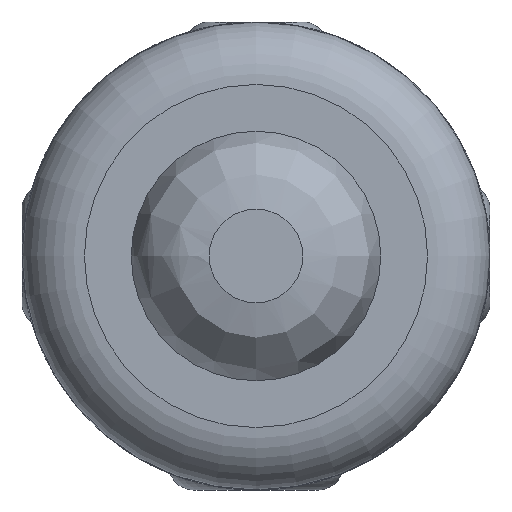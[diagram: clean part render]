
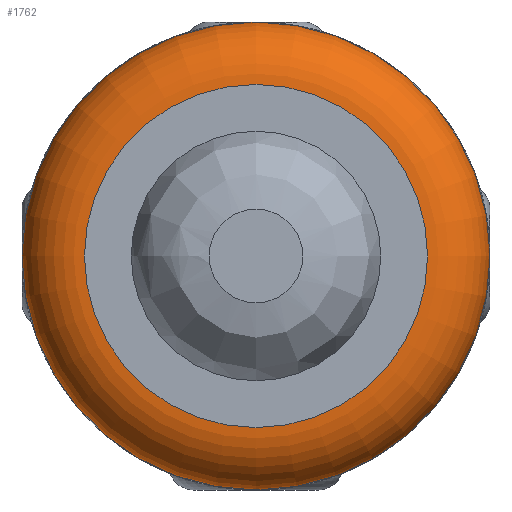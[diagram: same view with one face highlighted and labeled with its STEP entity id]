
A CAD part, front view. The second image highlights one B-rep face of the part: STEP entity #1762.
In plain terms, the highlighted toroidal (fillet/blend) face has major radius 6.985 mm and minor radius 2.54 mm.
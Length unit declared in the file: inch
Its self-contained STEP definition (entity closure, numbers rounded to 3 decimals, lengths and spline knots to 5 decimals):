
#1735=CARTESIAN_POINT('',(0.0,0.0,0.9));
#1736=DIRECTION('',(0.0,0.0,-1.0));
#1737=DIRECTION('',(-1.0,0.0,0.0));
#1738=AXIS2_PLACEMENT_3D('',#1735,#1736,#1737);
#1739=TOROIDAL_SURFACE('',#1738,0.275,0.1);
#1740=CARTESIAN_POINT('',(0.275,0.,1.0));
#1741=VERTEX_POINT('',#1740);
#1742=CARTESIAN_POINT('',(0.0,0.0,1.0));
#1743=DIRECTION('',(0.0,0.0,-1.0));
#1744=DIRECTION('',(-1.0,0.0,0.0));
#1745=AXIS2_PLACEMENT_3D('',#1742,#1743,#1744);
#1746=CIRCLE('',#1745,0.275);
#1747=EDGE_CURVE('',#1741,#1741,#1746,.T.);
#1748=ORIENTED_EDGE('',*,*,#1747,.T.);
#1749=EDGE_LOOP('',(#1748));
#1750=FACE_OUTER_BOUND('',#1749,.T.);
#1751=CARTESIAN_POINT('',(0.375,0.,0.9));
#1752=VERTEX_POINT('',#1751);
#1753=CARTESIAN_POINT('',(0.0,0.0,0.9));
#1754=DIRECTION('',(0.0,0.0,1.0));
#1755=DIRECTION('',(-1.0,0.0,0.0));
#1756=AXIS2_PLACEMENT_3D('',#1753,#1754,#1755);
#1757=CIRCLE('',#1756,0.375);
#1758=EDGE_CURVE('',#1752,#1752,#1757,.T.);
#1759=ORIENTED_EDGE('',*,*,#1758,.T.);
#1760=EDGE_LOOP('',(#1759));
#1761=FACE_BOUND('',#1760,.T.);
#1762=ADVANCED_FACE('',(#1750,#1761),#1739,.T.);
